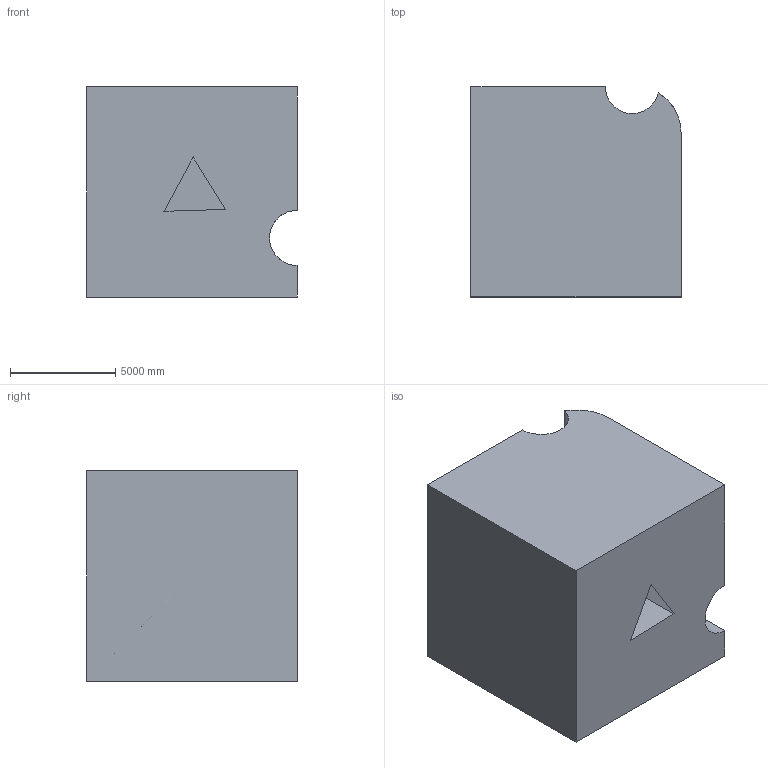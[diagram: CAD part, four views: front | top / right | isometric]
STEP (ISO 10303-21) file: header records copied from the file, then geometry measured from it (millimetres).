
FILE_DESCRIPTION (( 'STEP AP203' ), '1' );
FILE_NAME ('1459.STEP', '2022-08-18T14:36:12', ( 'user' ), ( '' ), 'SwSTEP 2.0', 'SolidWorks 2021', '' );
FILE_SCHEMA (( 'CONFIG_CONTROL_DESIGN' ));
Length unit declared in the file: centimetre
Products named in the file (1): 1459
Bounding box: 10000 x 10000 x 10000 mm (x, y, z)
Volume: 917950004873.3 mm3; surface area: 662271036 mm2
Topology: 1 solids, 1 shells, 19 faces, 51 edges, 34 vertices
Faces by surface type: plane 15, cylinder 4
Entity records: 896 total; most frequent: CARTESIAN_POINT 340, ORIENTED_EDGE 102, DIRECTION 93, EDGE_CURVE 51, VECTOR 39, LINE 39, VERTEX_POINT 34, AXIS2_PLACEMENT_3D 27
